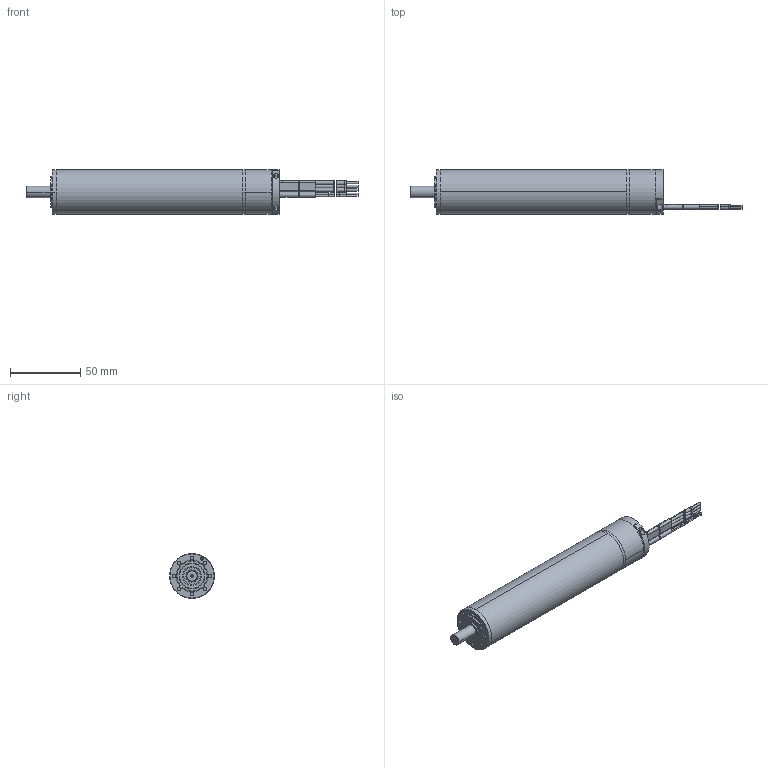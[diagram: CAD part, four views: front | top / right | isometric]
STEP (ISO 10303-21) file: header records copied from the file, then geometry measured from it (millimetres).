
FILE_DESCRIPTION((''),'2;1');
FILE_NAME('397798_EC-4POLE32_220W_A','2016-10-14T',('mmagpetk'),(''),'CREO PARAMETRIC BY PTC INC, 2016050','CREO PARAMETRIC BY PTC INC, 2016050','');
FILE_SCHEMA(('CONFIG_CONTROL_DESIGN'));
Length unit declared in the file: millimetre
Products named in the file (1): 397798_EC-4POLE32_220W_A
Bounding box: 236.8 x 32 x 32 mm (x, y, z)
Volume: 132349.1 mm3; surface area: 23289.1 mm2
Topology: 14 solids, 14 shells, 319 faces, 686 edges, 430 vertices
Faces by surface type: cylinder 144, plane 104, bspline 44, cone 19, torus 8
Entity records: 12841 total; most frequent: CARTESIAN_POINT 2535, DIRECTION 1537, ORIENTED_EDGE 1364, PRESENTATION_STYLE_ASSIGNMENT 842, STYLED_ITEM 696, CURVE_STYLE 682, EDGE_CURVE 682, AXIS2_PLACEMENT_3D 643
